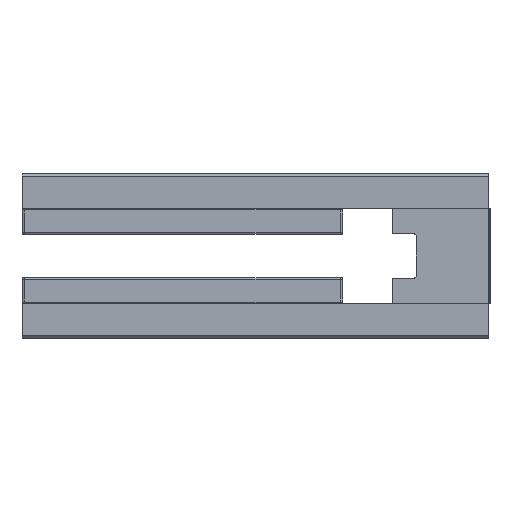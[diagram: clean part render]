
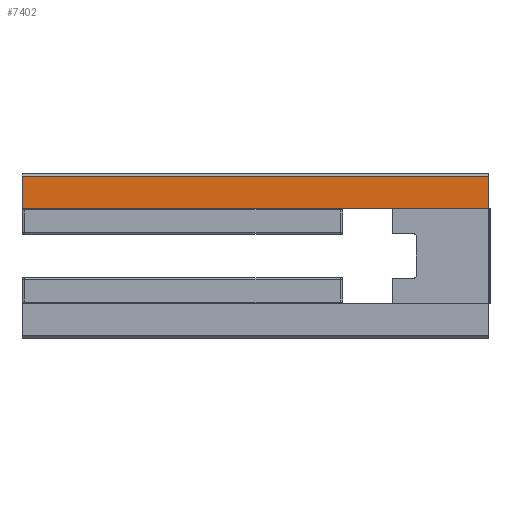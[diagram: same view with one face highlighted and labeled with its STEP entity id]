
A CAD part, front view. The second image highlights one B-rep face of the part: STEP entity #7402.
In plain terms, the highlighted planar face has unit normal (0, -1, 0).
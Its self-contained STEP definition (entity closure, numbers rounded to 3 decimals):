
#151 = CARTESIAN_POINT ( 'NONE',  ( 80., 19.04, 5.5 ) ) ;
#233 = VERTEX_POINT ( 'NONE', #151 ) ;
#1058 = VERTEX_POINT ( 'NONE', #7614 ) ;
#1082 = EDGE_LOOP ( 'NONE', ( #23241, #8299, #4417, #1894 ) ) ;
#1174 = DIRECTION ( 'NONE',  ( 0., 0., 1. ) ) ;
#1714 = CARTESIAN_POINT ( 'NONE',  ( 0., 19.04, 5.5 ) ) ;
#1894 = ORIENTED_EDGE ( 'NONE', *, *, #13391, .T. ) ;
#2271 = VERTEX_POINT ( 'NONE', #7991 ) ;
#2910 = VERTEX_POINT ( 'NONE', #19489 ) ;
#4417 = ORIENTED_EDGE ( 'NONE', *, *, #28975, .F. ) ;
#5584 = EDGE_CURVE ( 'NONE', #1058, #233, #10185, .T. ) ;
#7402 = ADVANCED_FACE ( 'NONE', ( #25010 ), #18480, .F. ) ;
#7614 = CARTESIAN_POINT ( 'NONE',  ( 80., 19.04, 0. ) ) ;
#7771 = VECTOR ( 'NONE', #24545, 1000. ) ;
#7864 = CARTESIAN_POINT ( 'NONE',  ( 0., 19.04, 0. ) ) ;
#7991 = CARTESIAN_POINT ( 'NONE',  ( 0., 19.04, 0. ) ) ;
#8299 = ORIENTED_EDGE ( 'NONE', *, *, #35263, .T. ) ;
#8950 = VECTOR ( 'NONE', #25298, 1000. ) ;
#10185 = LINE ( 'NONE', #18793, #19925 ) ;
#10363 = LINE ( 'NONE', #1714, #7771 ) ;
#10455 = CARTESIAN_POINT ( 'NONE',  ( 80., 19.04, -4. ) ) ;
#12133 = VECTOR ( 'NONE', #31027, 1000. ) ;
#12939 = DIRECTION ( 'NONE',  ( 1., 0., 0. ) ) ;
#13391 = EDGE_CURVE ( 'NONE', #2271, #1058, #22431, .T. ) ;
#13428 = CARTESIAN_POINT ( 'NONE',  ( 0., 19.04, -4. ) ) ;
#18480 = PLANE ( 'NONE',  #20107 ) ;
#18793 = CARTESIAN_POINT ( 'NONE',  ( 80., 19.04, -4. ) ) ;
#19489 = CARTESIAN_POINT ( 'NONE',  ( 0., 19.04, 5.5 ) ) ;
#19925 = VECTOR ( 'NONE', #1174, 1000. ) ;
#20107 = AXIS2_PLACEMENT_3D ( 'NONE', #10455, #22122, #12939 ) ;
#22122 = DIRECTION ( 'NONE',  ( 0., 1., 0. ) ) ;
#22431 = LINE ( 'NONE', #7864, #8950 ) ;
#23241 = ORIENTED_EDGE ( 'NONE', *, *, #5584, .T. ) ;
#24545 = DIRECTION ( 'NONE',  ( -1., 0., 0. ) ) ;
#25010 = FACE_OUTER_BOUND ( 'NONE', #1082, .T. ) ;
#25298 = DIRECTION ( 'NONE',  ( 1., 0., 0. ) ) ;
#27613 = LINE ( 'NONE', #13428, #12133 ) ;
#28975 = EDGE_CURVE ( 'NONE', #2271, #2910, #27613, .T. ) ;
#31027 = DIRECTION ( 'NONE',  ( 0., 0., 1. ) ) ;
#35263 = EDGE_CURVE ( 'NONE', #233, #2910, #10363, .T. ) ;
